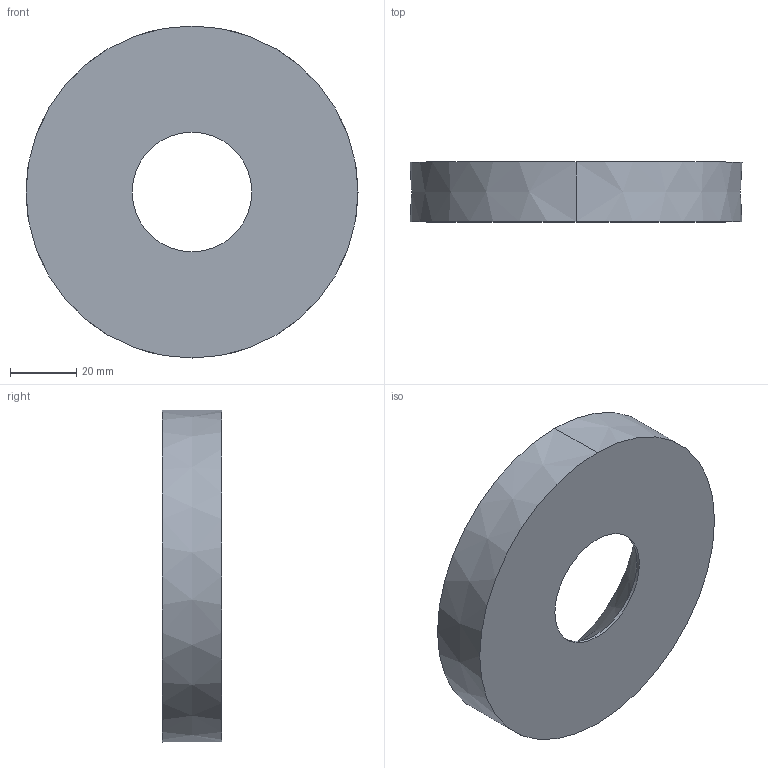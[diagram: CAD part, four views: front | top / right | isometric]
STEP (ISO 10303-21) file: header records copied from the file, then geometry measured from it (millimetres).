
FILE_DESCRIPTION (( 'STEP AP214' ), '1' );
FILE_NAME ('IMC-EC-90x18.STEP', '2023-01-04T13:41:35', ( '' ), ( '' ), 'SwSTEP 2.0', 'SolidWorks 2019', '' );
FILE_SCHEMA (( 'AUTOMOTIVE_DESIGN' ));
Length unit declared in the file: millimetre
Products named in the file (1): IMC-EC-90x18
Bounding box: 100 x 18 x 100 mm (x, y, z)
Volume: 101562.6 mm3; surface area: 20612.6 mm2
Topology: 1 solids, 1 shells, 8 faces, 16 edges, 10 vertices
Faces by surface type: cone 4, cylinder 2, plane 2
Entity records: 252 total; most frequent: DIRECTION 44, CARTESIAN_POINT 35, ORIENTED_EDGE 32, AXIS2_PLACEMENT_3D 19, EDGE_CURVE 16, VERTEX_POINT 10, CIRCLE 10, EDGE_LOOP 10
